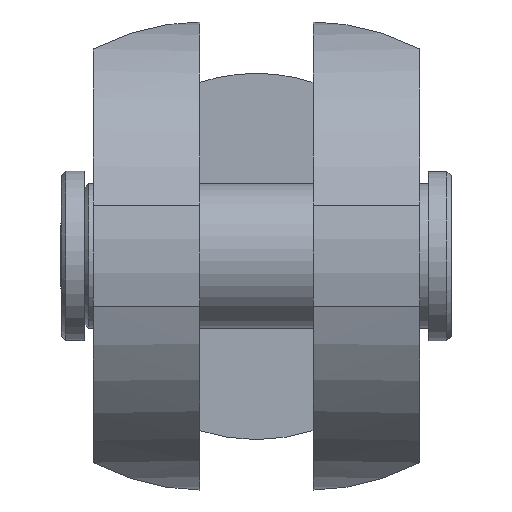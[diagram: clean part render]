
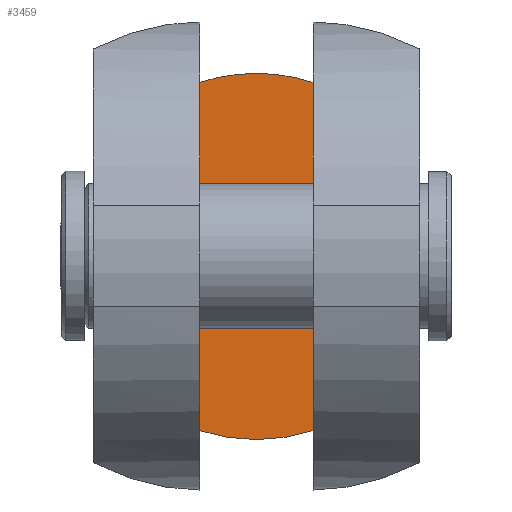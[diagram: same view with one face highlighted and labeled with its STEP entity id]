
A CAD part, top view. The second image highlights one B-rep face of the part: STEP entity #3459.
In plain terms, the highlighted planar face has unit normal (0, 0, 1).
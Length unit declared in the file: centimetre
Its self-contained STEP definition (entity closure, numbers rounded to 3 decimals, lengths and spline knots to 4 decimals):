
#152=PLANE('',#3649);
#503=LINE('',#5621,#851);
#504=LINE('',#5623,#852);
#851=VECTOR('',#4343,15.3577);
#852=VECTOR('',#4346,15.3577);
#1138=FACE_OUTER_BOUND('',#1344,.T.);
#1344=EDGE_LOOP('',(#3012,#3013,#3014,#3015));
#1406=CIRCLE('',#3504,8.0756);
#1407=CIRCLE('',#3505,8.0756);
#1453=VERTEX_POINT('',#4500);
#1454=VERTEX_POINT('',#4504);
#1459=VERTEX_POINT('',#4536);
#1460=VERTEX_POINT('',#4540);
#1763=EDGE_CURVE('',#1453,#1454,#1406,.T.);
#1769=EDGE_CURVE('',#1459,#1460,#1407,.T.);
#2164=EDGE_CURVE('',#1460,#1453,#503,.T.);
#2165=EDGE_CURVE('',#1459,#1454,#504,.T.);
#3012=ORIENTED_EDGE('',*,*,#1769,.F.);
#3013=ORIENTED_EDGE('',*,*,#2165,.T.);
#3014=ORIENTED_EDGE('',*,*,#1763,.F.);
#3015=ORIENTED_EDGE('',*,*,#2164,.F.);
#3459=ADVANCED_FACE('',(#1138),#152,.F.);
#3504=AXIS2_PLACEMENT_3D('',#4505,#3719,#3720);
#3505=AXIS2_PLACEMENT_3D('',#4541,#3721,#3722);
#3649=AXIS2_PLACEMENT_3D('',#5622,#4344,#4345);
#3719=DIRECTION('center_axis',(0.,0.,
-1.));
#3720=DIRECTION('ref_axis',(0.,1.,0.));
#3721=DIRECTION('center_axis',(0.,0.,
-1.));
#3722=DIRECTION('ref_axis',(0.,1.,0.));
#4343=DIRECTION('',(0.,-1.,0.));
#4344=DIRECTION('center_axis',(0.,0.,
-1.));
#4345=DIRECTION('ref_axis',(1.,0.,0.));
#4346=DIRECTION('',(0.,-1.,0.));
#4500=CARTESIAN_POINT('',(2.5,-7.6789,-12.5));
#4504=CARTESIAN_POINT('',(-2.5,-7.6789,-12.5));
#4505=CARTESIAN_POINT('Origin',(0.,0.,
-12.5));
#4536=CARTESIAN_POINT('',(-2.5,7.6789,-12.5));
#4540=CARTESIAN_POINT('',(2.5,7.6789,-12.5));
#4541=CARTESIAN_POINT('Origin',(0.,0.,
-12.5));
#5621=CARTESIAN_POINT('',(2.5,0.,-12.5));
#5622=CARTESIAN_POINT('Origin',(-2.5,0.,
-12.5));
#5623=CARTESIAN_POINT('',(-2.5,0.,-12.5));
